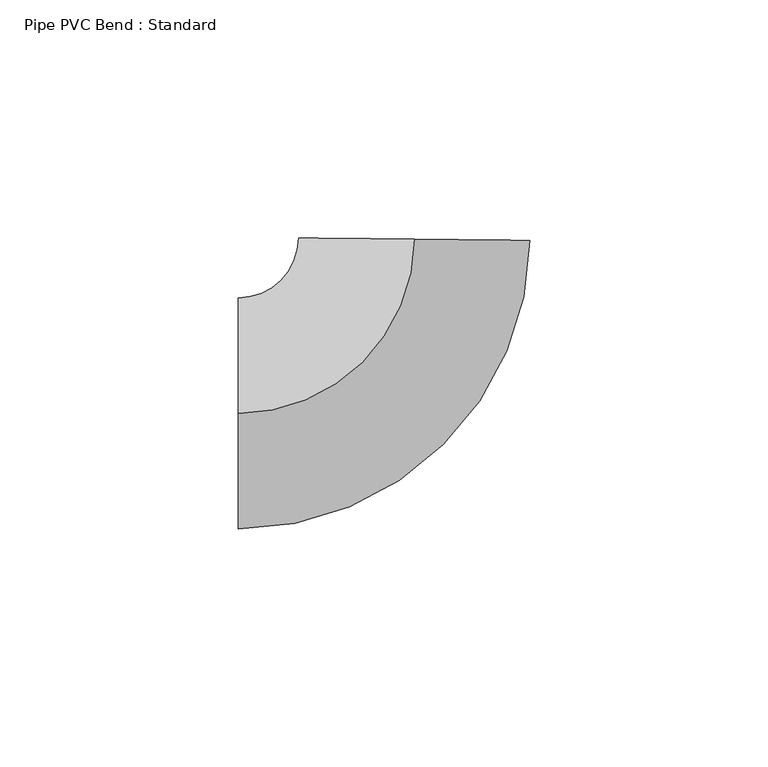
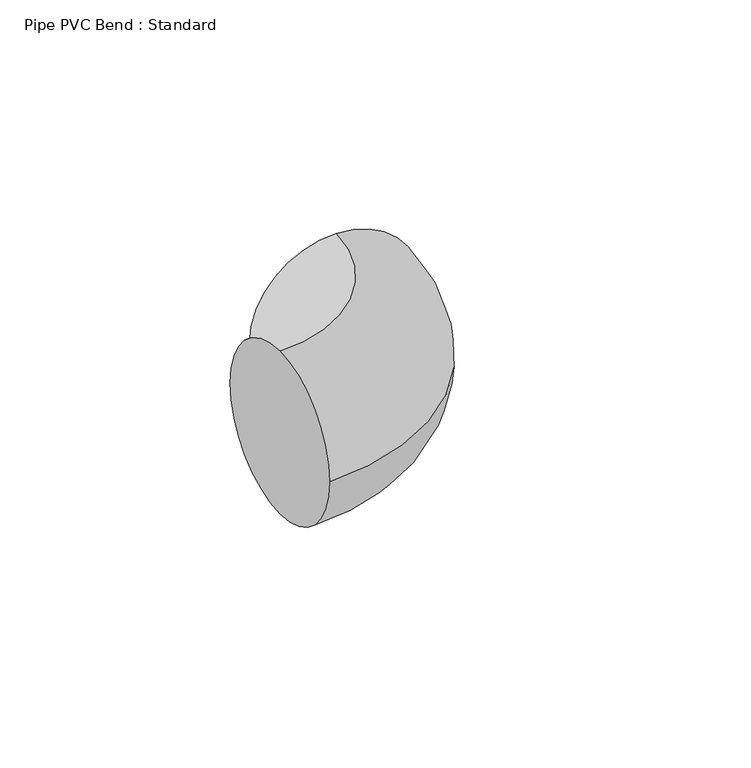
"""IFC4 building model written with IfcOpenShell, lengths in millimetres: pipe fitting geometry, Pipe PVC Bend : Standard."""

from ifc_helpers import new_model, si_unit, point, frame, origin, place, context, project, spatial, circle_curve, ellipse_curve, trimmed, source, transform, mapped, element, save
from ifc_brep_helpers import plane_surface, revolved_surface, advanced_brep


def pipe_pvc_bend_standard_e3b88754(model_context):
    return source(origin(), model_context, "Body", "AdvancedBrep", [
        advanced_brep(
        [(-36.5718383, 0.0, 24.257), (-36.5718383, 24.257, 0.0), (-36.5718383, 0.0, -24.257), (-36.5718383, -24.257, 0.0), (0.3831336, 36.5698313, 24.257), (24.6388025, 36.3157103, 0.0), (0.3831336, 36.5698313, -24.257), (-23.8725352, 36.8239524, 0.0)],
        [
            (0, 1, circle_curve(frame((-36.5718383, 0.0, 0.0), z_axis=(-1.0, 0.0, 0.0), x_axis=(0.0, 1.0, 0.0)), 24.257)),
            (1, 2, circle_curve(frame((-36.5718383, 0.0, 0.0), z_axis=(-1.0, 0.0, 0.0), x_axis=(0.0, 1.0, 0.0)), 24.257)),
            (2, 3, circle_curve(frame((-36.5718383, 0.0, 0.0), z_axis=(-1.0, 0.0, 0.0), x_axis=(0.0, 1.0, 0.0)), 24.257)),
            (3, 0, circle_curve(frame((-36.5718383, 0.0, 0.0), z_axis=(-1.0, 0.0, 0.0), x_axis=(0.0, 1.0, 0.0)), 24.257)),
            (4, 5, circle_curve(frame((0.3831336, 36.5698313, 0.0), z_axis=(0.010476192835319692, 0.9999451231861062, 0.0), x_axis=(-0.9999451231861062, 0.010476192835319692, 0.0)), 24.257)),
            (5, 6, circle_curve(frame((0.3831336, 36.5698313, 0.0), z_axis=(0.010476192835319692, 0.9999451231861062, 0.0), x_axis=(-0.9999451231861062, 0.010476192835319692, 0.0)), 24.257)),
            (6, 7, circle_curve(frame((0.3831336, 36.5698313, 0.0), z_axis=(0.010476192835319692, 0.9999451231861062, 0.0), x_axis=(-0.9999451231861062, 0.010476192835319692, 0.0)), 24.257)),
            (7, 4, circle_curve(frame((0.3831336, 36.5698313, 0.0), z_axis=(0.010476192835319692, 0.9999451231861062, 0.0), x_axis=(-0.9999451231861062, 0.010476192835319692, 0.0)), 24.257)),
            (7, 1, circle_curve(frame((-36.5718383, 36.957, 0.0), z_axis=(0.0, 0.0, -1.0), x_axis=(0.0, -1.0, 0.0)), 12.7)),
            (0, 4, circle_curve(frame((-36.5718383, 36.957, 24.257), z_axis=(0.0, 0.0, 1.0), x_axis=(0.0, -1.0, 0.0)), 36.957)),
            (6, 2, circle_curve(frame((-36.5718383, 36.957, -24.257), z_axis=(0.0, 0.0, -1.0), x_axis=(0.0, -1.0, 0.0)), 36.957)),
            (5, 3, circle_curve(frame((-36.5718383, 36.957, 0.0), z_axis=(0.0, 0.0, -1.0), x_axis=(0.0, -1.0, 0.0)), 61.214)),
        ],
        [
            plane_surface(frame((-36.5718383, 0.0, 0.0), z_axis=(-1.0, 0.0, 0.0), x_axis=(0.0, 0.0, 1.0))),
            plane_surface(frame((0.3831336, 36.5698313, 0.0), z_axis=(0.010476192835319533, 0.9999451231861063, 0.0), x_axis=(0.0, 0.0, 1.0))),
            revolved_surface(trimmed(ellipse_curve(frame((-36.5718383, 0.0, 0.0), z_axis=(-1.0, 0.0, 0.0), x_axis=(0.0, 1.0, 0.0)), 24.257, 24.257), [point((-36.5718383, 0.0, 24.257))], [point((-36.5718383, 24.257, 0.0))], True, "CARTESIAN"), (-36.5718383, 36.957, 0.0), (0.0, 0.0, 1.0)),
            revolved_surface(trimmed(ellipse_curve(frame((-36.5718383, 0.0, 0.0), z_axis=(-1.0, 0.0, 0.0), x_axis=(0.0, 1.0, 0.0)), 24.257, 24.257), [point((-36.5718383, 24.257, 0.0))], [point((-36.5718383, 0.0, -24.257))], True, "CARTESIAN"), (-36.5718383, 36.957, 0.0), (0.0, 0.0, 1.0)),
            revolved_surface(trimmed(ellipse_curve(frame((-36.5718383, 0.0, 0.0), z_axis=(-1.0, 0.0, 0.0), x_axis=(0.0, 1.0, 0.0)), 24.257, 24.257), [point((-36.5718383, 0.0, -24.257))], [point((-36.5718383, -24.257, 0.0))], True, "CARTESIAN"), (-36.5718383, 36.957, 0.0), (0.0, 0.0, 1.0)),
            revolved_surface(trimmed(ellipse_curve(frame((-36.5718383, 0.0, 0.0), z_axis=(-1.0, 0.0, 0.0), x_axis=(0.0, 1.0, 0.0)), 24.257, 24.257), [point((-36.5718383, -24.257, 0.0))], [point((-36.5718383, 0.0, 24.257))], True, "CARTESIAN"), (-36.5718383, 36.957, 0.0), (0.0, 0.0, 1.0)),
        ],
        [
            (0, [[1, 2, 3, 4]]),
            (1, [[5, 6, 7, 8]]),
            (2, [[9, -1, 10, -8]]),
            (3, [[11, -2, -9, -7]]),
            (4, [[12, -3, -11, -6]]),
            (5, [[-10, -4, -12, -5]]),
        ],
    ),
        advanced_brep(
        [(-36.5718383, 0.0, 24.257), (-36.5718383, 24.257, 0.0), (-36.5718383, 0.0, -24.257), (-36.5718383, -24.257, 0.0), (0.3831336, 36.5698313, 24.257), (24.6388025, 36.3157103, 0.0), (0.3831336, 36.5698313, -24.257), (-23.8725352, 36.8239524, 0.0)],
        [
            (0, 1, circle_curve(frame((-36.5718383, 0.0, 0.0), z_axis=(-1.0, 0.0, 0.0), x_axis=(0.0, 1.0, 0.0)), 24.257)),
            (1, 2, circle_curve(frame((-36.5718383, 0.0, 0.0), z_axis=(-1.0, 0.0, 0.0), x_axis=(0.0, 1.0, 0.0)), 24.257)),
            (2, 3, circle_curve(frame((-36.5718383, 0.0, 0.0), z_axis=(-1.0, 0.0, 0.0), x_axis=(0.0, 1.0, 0.0)), 24.257)),
            (3, 0, circle_curve(frame((-36.5718383, 0.0, 0.0), z_axis=(-1.0, 0.0, 0.0), x_axis=(0.0, 1.0, 0.0)), 24.257)),
            (4, 5, circle_curve(frame((0.3831336, 36.5698313, 0.0), z_axis=(0.010476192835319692, 0.9999451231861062, 0.0), x_axis=(-0.9999451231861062, 0.010476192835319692, 0.0)), 24.257)),
            (5, 6, circle_curve(frame((0.3831336, 36.5698313, 0.0), z_axis=(0.010476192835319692, 0.9999451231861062, 0.0), x_axis=(-0.9999451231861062, 0.010476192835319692, 0.0)), 24.257)),
            (6, 7, circle_curve(frame((0.3831336, 36.5698313, 0.0), z_axis=(0.010476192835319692, 0.9999451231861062, 0.0), x_axis=(-0.9999451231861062, 0.010476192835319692, 0.0)), 24.257)),
            (7, 4, circle_curve(frame((0.3831336, 36.5698313, 0.0), z_axis=(0.010476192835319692, 0.9999451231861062, 0.0), x_axis=(-0.9999451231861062, 0.010476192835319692, 0.0)), 24.257)),
            (7, 1, circle_curve(frame((-36.5718383, 36.957, 0.0), z_axis=(0.0, 0.0, -1.0), x_axis=(0.0, -1.0, 0.0)), 12.7)),
            (0, 4, circle_curve(frame((-36.5718383, 36.957, 24.257), z_axis=(0.0, 0.0, 1.0), x_axis=(0.0, -1.0, 0.0)), 36.957)),
            (6, 2, circle_curve(frame((-36.5718383, 36.957, -24.257), z_axis=(0.0, 0.0, -1.0), x_axis=(0.0, -1.0, 0.0)), 36.957)),
            (5, 3, circle_curve(frame((-36.5718383, 36.957, 0.0), z_axis=(0.0, 0.0, -1.0), x_axis=(0.0, -1.0, 0.0)), 61.214)),
        ],
        [
            plane_surface(frame((-36.5718383, 0.0, 0.0), z_axis=(-1.0, 0.0, 0.0), x_axis=(0.0, 0.0, 1.0))),
            plane_surface(frame((0.3831336, 36.5698313, 0.0), z_axis=(0.010476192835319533, 0.9999451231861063, 0.0), x_axis=(0.0, 0.0, 1.0))),
            revolved_surface(trimmed(ellipse_curve(frame((-36.5718383, 0.0, 0.0), z_axis=(-1.0, 0.0, 0.0), x_axis=(0.0, 1.0, 0.0)), 24.257, 24.257), [point((-36.5718383, 0.0, 24.257))], [point((-36.5718383, 24.257, 0.0))], True, "CARTESIAN"), (-36.5718383, 36.957, 0.0), (0.0, 0.0, 1.0)),
            revolved_surface(trimmed(ellipse_curve(frame((-36.5718383, 0.0, 0.0), z_axis=(-1.0, 0.0, 0.0), x_axis=(0.0, 1.0, 0.0)), 24.257, 24.257), [point((-36.5718383, 24.257, 0.0))], [point((-36.5718383, 0.0, -24.257))], True, "CARTESIAN"), (-36.5718383, 36.957, 0.0), (0.0, 0.0, 1.0)),
            revolved_surface(trimmed(ellipse_curve(frame((-36.5718383, 0.0, 0.0), z_axis=(-1.0, 0.0, 0.0), x_axis=(0.0, 1.0, 0.0)), 24.257, 24.257), [point((-36.5718383, 0.0, -24.257))], [point((-36.5718383, -24.257, 0.0))], True, "CARTESIAN"), (-36.5718383, 36.957, 0.0), (0.0, 0.0, 1.0)),
            revolved_surface(trimmed(ellipse_curve(frame((-36.5718383, 0.0, 0.0), z_axis=(-1.0, 0.0, 0.0), x_axis=(0.0, 1.0, 0.0)), 24.257, 24.257), [point((-36.5718383, -24.257, 0.0))], [point((-36.5718383, 0.0, 24.257))], True, "CARTESIAN"), (-36.5718383, 36.957, 0.0), (0.0, 0.0, 1.0)),
        ],
        [
            (0, [[1, 2, 3, 4]]),
            (1, [[5, 6, 7, 8]]),
            (2, [[9, -1, 10, -8]]),
            (3, [[11, -2, -9, -7]]),
            (4, [[12, -3, -11, -6]]),
            (5, [[-10, -4, -12, -5]]),
        ],
    ),
    ])


if __name__ == "__main__":
    model = new_model("IFC4")
    model_context = context("Model", 3, world=origin())
    ifc_project = project(units=[si_unit("LENGTHUNIT", "METRE", prefix="MILLI")], contexts=[model_context])
    site = spatial("IfcSite", under=ifc_project)
    building = spatial("IfcBuilding", under=site)
    placement = place(None, origin())
    pipe_pvc_bend_standard_shape = pipe_pvc_bend_standard_e3b88754(model_context)
    element("IfcPipeFitting", 1, ObjectType="Pipe PVC Bend : Standard", at=placement, inside=building, context=model_context, shape_type="MappedRepresentation", body=[
        mapped(pipe_pvc_bend_standard_shape, transform((0.0, 0.0, 0.0), x_axis=(1.0, 0.0, 0.0), y_axis=(0.0, 1.0, 0.0), z_axis=(0.0, 0.0, 1.0))),
    ])
    save(model, "model.ifc")
